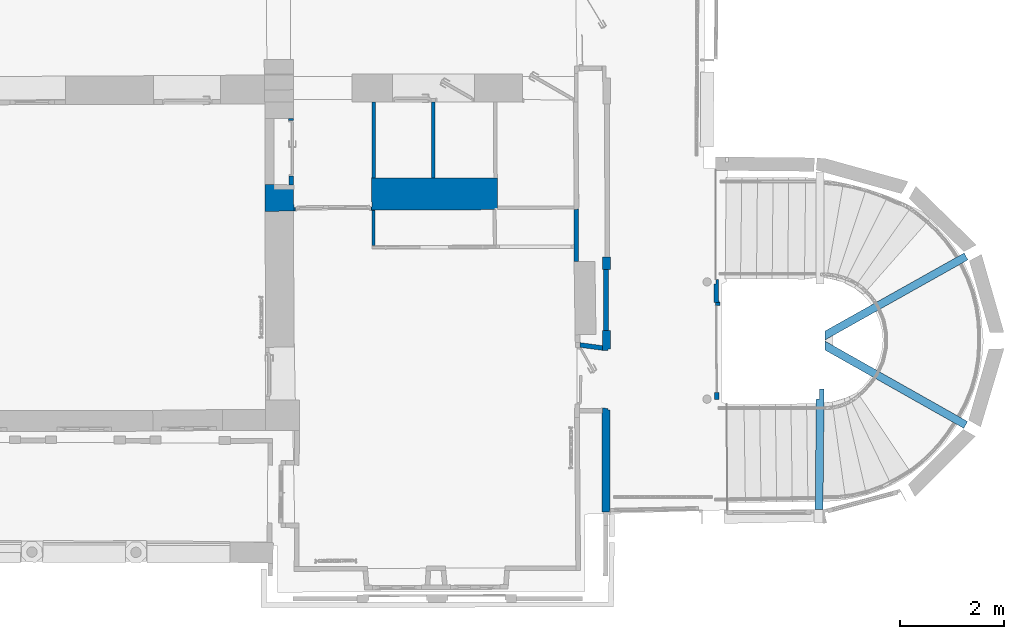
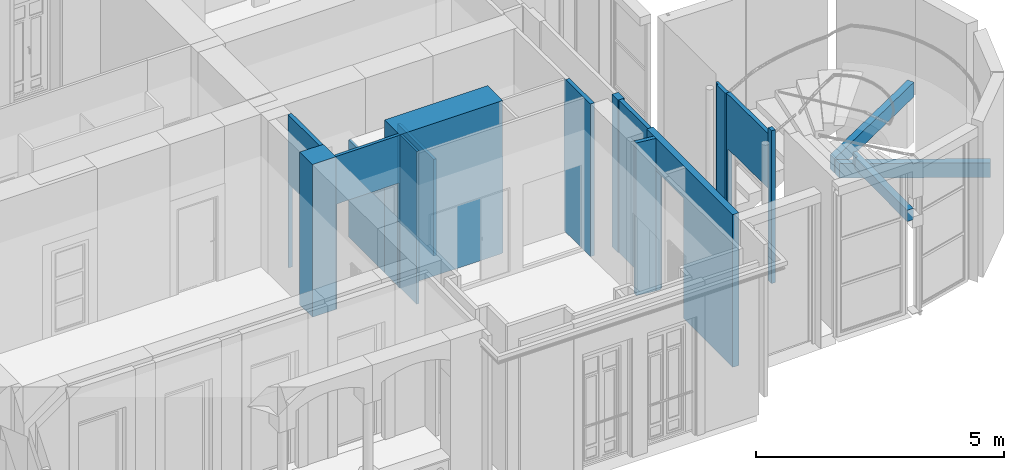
# One storey, part 12 of 66: 18 walls, 4 openings.
"""IFC2X3 building model written with IfcOpenShell, lengths in centimetres."""

from ifc_helpers import new_model, entity, si_unit, converted_unit, direction, frame, origin, origin_with_axes, origin_2d_with_axis, place, context, subcontext, project, spatial, polyline, rectangle, outline, extrude, clip, bounded_halfspace, faceted_brep, shape, material, layer, layer_set, layer_usage, type_object, element, save


model = new_model("IFC2X3")

# Units and contexts
model_context = context("Model", 3, precision=0.0001, world=origin(), true_north=direction((0.225632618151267, 0.974212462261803, 0.0)))
body_context = subcontext(model_context, "Body", "Model", "MODEL_VIEW")
footprint_context = subcontext(model_context, "FootPrint", "Model", "MODEL_VIEW")
profile_context = subcontext(model_context, "Profile", "Model", "MODEL_VIEW")
ifc_project = project(units=[si_unit("LENGTHUNIT", "METRE", prefix="CENTI"), si_unit("AREAUNIT", "SQUARE_METRE", prefix="CENTI"), si_unit("VOLUMEUNIT", "CUBIC_METRE", prefix="CENTI"), converted_unit("PLANEANGLEUNIT", "DEGREE", entity("IfcRatioMeasure", 0.0174532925), si_unit("PLANEANGLEUNIT", "RADIAN"), dimensions=[0, 0, 0, 0, 0, 0, 0])], contexts=[model_context])

# Site, building, storey
site_placement = place(None, origin_with_axes())
site = spatial("IfcSite", under=ifc_project, at=site_placement, Name="Default Site", CompositionType="ELEMENT")
building_placement = place(site_placement, origin_with_axes())
building = spatial("IfcBuilding", under=site, at=building_placement, Name="Default Building", CompositionType="ELEMENT")
storey_placement = place(building_placement, frame((0.0, 0.0, 477.795358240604), z_axis=(0.0, 0.0, 1.0), x_axis=(1.0, 0.0, 0.0)))
storey = spatial("IfcBuildingStorey", under=building, at=storey_placement, Name="Niveau 1", CompositionType="ELEMENT", Elevation=477.795358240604)

# Wall
ifc_material = material(Name="<aucun>")
ifc_layer_1 = layer(ifc_material, 9.0)
ifc_layer_set_1 = layer_set([ifc_layer_1], Name="default")
ifc_layer_usage_1 = layer_usage(ifc_layer_set_1, "AXIS2", "POSITIVE", -4.5)
wall_type_1 = type_object("IfcWallType", Name="default 90", PredefinedType="NOTDEFINED", material=ifc_layer_set_1)
wall_1_placement = place(storey_placement, frame((1101.776454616, -474.349412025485, 0.0128503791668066), z_axis=(0.0, 0.0, 1.0), x_axis=(-0.00922781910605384, 0.999957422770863, 0.0)))
element("IfcWallStandardCase", 1, at=wall_1_placement, inside=storey, type_object=wall_type_1, material=ifc_layer_usage_1, Name="Enveloppe 718700", context=body_context, shape_type="SweptSolid", body=[
    extrude(outline(polyline([(34.6359576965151, 4.50000000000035), (-8.88178419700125e-14, 4.49999999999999), (-8.88178419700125e-14, 1.83109314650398), (-0.0456905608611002, 1.83151478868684), (-0.0572048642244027, -7.16804623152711), (0.0427877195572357, -7.16896898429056), (0.0462034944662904, -4.49999999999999), (43.654465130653, -4.49999999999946), (43.6882308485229, 0.421640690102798), (34.6359593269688, 0.474842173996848), (34.6359576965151, 4.50000000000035)])), frame((0.0, 0.0, -1.77635683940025e-13), z_axis=(0.0, 0.0, 1.0), x_axis=(1.0, 0.0, 0.0)), (0.0, 0.0, 1.0), 356.102165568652),
])

# Wall, opening
ifc_layer_usage_2 = layer_usage(ifc_layer_set_1, "AXIS2", "POSITIVE", -4.5)
wall_2_placement = place(storey_placement, frame((1105.81888581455, -647.145764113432, 0.0128503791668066), z_axis=(0.0, 0.0, 1.0), x_axis=(-0.00794805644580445, 0.99996841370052, 0.0)))
wall_2 = element("IfcWallStandardCase", 2, at=wall_2_placement, inside=storey, type_object=wall_type_1, material=ifc_layer_usage_2, Name="Enveloppe 718734", context=body_context, shape_type="SweptSolid", body=[
    extrude(outline(polyline([(-0.074267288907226, 8.12973288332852), (-0.0999961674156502, -0.870230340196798), (0.0, -0.870946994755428), (8.88178419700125e-14, -4.50000000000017), (172.774986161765, -4.4999999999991), (172.774986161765, 4.5000000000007), (0.0, 4.49999999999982), (0.010374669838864, 8.12906012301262), (-0.074267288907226, 8.12973288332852)])), frame((0.0, 0.0, -2.66453525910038e-13), z_axis=(0.0, 0.0, 1.0), x_axis=(1.0, 0.0, 0.0)), (0.0, 0.0, 1.0), 356.102165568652),
])
opening_1_placement = place(wall_2_placement, frame((1.13686837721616e-13, 0.0, -8.88178419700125e-14), z_axis=(0.0, 0.0, 1.0), x_axis=(-1.0, -4.60395610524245e-15, 0.0)))
cartesian_point_1 = entity("IfcCartesianPoint", [0.0, 0.0, 221.6])
cartesian_point_2 = entity("IfcCartesianPoint", [-166.113069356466, -4.49999999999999])
element("IfcOpeningElement", 3, at=opening_1_placement, cuts=wall_2, Name="Baie 1528657", ObjectType="Opening", shapes=[
    shape(body_context, "Body", "SweptSolid", [extrude(outline(polyline([(0.0, 221.6), (0.0, -8.88178419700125e-14), (166.113069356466, -8.88178419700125e-14), (166.113069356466, 221.6), (0.0, 221.6)])), frame((0.0, -14.5, 0.0), z_axis=(0.0, 1.0, 0.0), x_axis=(-1.0, 0.0, 0.0)), (0.0, 0.0, 1.0), 29.0)]),
    shape(profile_context, "Profile", "GeometricCurveSet", [entity("IfcGeometricCurveSet", [entity("IfcPolyline", [cartesian_point_1, entity("IfcCartesianPoint", [0.0, 0.0, -8.88178419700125e-14]), entity("IfcCartesianPoint", [-166.113069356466, -1.77635683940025e-13, -8.88178419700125e-14]), entity("IfcCartesianPoint", [-166.113069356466, -1.77635683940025e-13, 221.6]), cartesian_point_1])])]),
    shape(footprint_context, "FootPrint", "GeometricCurveSet", [entity("IfcGeometricCurveSet", [entity("IfcPolyline", [cartesian_point_2, entity("IfcCartesianPoint", [0.0, -4.49999999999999]), entity("IfcCartesianPoint", [0.0, 4.49999999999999]), entity("IfcCartesianPoint", [-166.113069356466, 4.49999999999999]), cartesian_point_2])])]),
])

# Walls
ifc_layer_usage_3 = layer_usage(ifc_layer_set_1, "AXIS2", "POSITIVE", -4.5)
wall_3_placement = place(storey_placement, frame((883.853541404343, -562.192113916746, 0.0128503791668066), z_axis=(0.0, 0.0, 1.0), x_axis=(-0.990946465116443, 0.134257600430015, 0.0)))
element("IfcWallStandardCase", 4, at=wall_3_placement, inside=storey, type_object=wall_type_1, material=ifc_layer_usage_3, Name="Enveloppe 724235", context=body_context, shape_type="SweptSolid", body=[
    extrude(outline(polyline([(43.5268829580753, 4.49999999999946), (1.24344978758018e-12, 4.4999999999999), (1.19271669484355, -4.49999999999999), (44.6675000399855, -4.50000000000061), (43.5268829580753, 4.49999999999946)])), frame((0.0, 0.0, -7.99360577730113e-13), z_axis=(0.0, 0.0, 1.0), x_axis=(1.0, 0.0, 0.0)), (0.0, 0.0, 1.0), 376.102165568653),
])
ifc_layer_usage_4 = layer_usage(ifc_layer_set_1, "AXIS2", "POSITIVE", -4.5)
wall_4_placement = place(storey_placement, frame((1102.3054123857, -669.86549020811, 0.0128503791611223), z_axis=(0.0, 0.0, 1.0), x_axis=(-0.00508934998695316, 0.999987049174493, 0.0)))
element("IfcWallStandardCase", 5, at=wall_4_placement, inside=storey, type_object=wall_type_1, material=ifc_layer_usage_4, Name="Enveloppe 1528572", context=body_context, shape_type="Clipping", body=[
    clip(clip(extrude(rectangle(XDim=9.00000011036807, YDim=13.4824443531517, at=origin_2d_with_axis()), frame((15.9467592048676, -1.77635683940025e-13, -1.77635683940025e-13), z_axis=(0.0, 0.0, 1.0), x_axis=(-0.000156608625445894, -0.999999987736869, 0.0)), (0.0, 0.0, 1.0), 376.102165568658), bounded_halfspace(frame((22.6040403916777, -4.50000000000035, 356.102165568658), z_axis=(0.0, 0.0, 1.0), x_axis=(4.47905601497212e-15, 1.0, 0.0)), True, frame((22.6040403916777, -4.50000000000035, 356.102165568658), z_axis=(0.0, 0.0, 1.0), x_axis=(1.0, 0.0, 0.0)), polyline([(-8.88178419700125e-14, -1.77635683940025e-13), (0.0, 7.81832498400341), (0.0846457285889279, 7.81867529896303), (0.0846457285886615, 1.77635683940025e-13), (-8.88178419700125e-14, -1.77635683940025e-13)]))), bounded_halfspace(frame((22.6886861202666, 4.49999999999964, 356.102165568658), z_axis=(0.0, 0.0, 1.0), x_axis=(-5.63334101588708e-14, -1.0, 0.0)), True, frame((22.6886861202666, 4.49999999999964, 356.102165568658), z_axis=(0.0, 0.0, 1.0), x_axis=(1.0, 0.0, 0.0)), polyline([(-0.0846457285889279, -1.18167501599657), (-0.0846457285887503, 3.5527136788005e-13), (-8.88178419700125e-14, 0.0), (0.0, -1.18132470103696), (-0.0846457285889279, -1.18167501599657)]))),
])

# Wall, opening
ifc_layer_usage_5 = layer_usage(ifc_layer_set_1, "AXIS2", "POSITIVE", -4.5)
wall_5_placement = place(storey_placement, frame((286.366814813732, -249.295824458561, 0.0128503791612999), z_axis=(0.0, 0.0, 1.0), x_axis=(-0.00303669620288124, 0.999995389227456, 0.0)))
wall_5 = element("IfcWallStandardCase", 6, at=wall_5_placement, inside=storey, type_object=wall_type_1, material=ifc_layer_usage_5, Name="Enveloppe 119880", context=body_context, shape_type="SweptSolid", body=[
    extrude(rectangle(XDim=9.00000000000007, YDim=126.820270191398, at=origin_2d_with_axis()), frame((63.648753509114, -1.77635683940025e-13, -1.77635683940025e-13), z_axis=(0.0, 0.0, 1.0), x_axis=(-3.03576608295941e-17, -1.0, 0.0)), (0.0, 0.0, 1.0), 376.102165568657),
])
opening_2_placement = place(wall_5_placement, frame((17.1604798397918, -5.6843418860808e-14, -3.5527136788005e-13), z_axis=(0.0, 0.0, 1.0), x_axis=(-1.0, 1.77939260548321e-15, 0.0)))
cartesian_point_3 = entity("IfcCartesianPoint", [0.0, 0.0, 207.0])
cartesian_point_4 = entity("IfcCartesianPoint", [-106.302002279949, -4.50000000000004])
element("IfcOpeningElement", 7, at=opening_2_placement, cuts=wall_5, Name="4294966393_11", ObjectType="Opening", shapes=[
    shape(body_context, "Body", "SweptSolid", [extrude(outline(polyline([(4.44089209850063e-14, 207.0), (4.44089209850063e-14, -8.88178419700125e-14), (106.302002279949, -8.88178419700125e-14), (106.302002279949, 207.0), (4.44089209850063e-14, 207.0)])), frame((0.0, -14.5, 0.0), z_axis=(0.0, 1.0, 0.0), x_axis=(-1.0, 0.0, 0.0)), (0.0, 0.0, 1.0), 29.0)]),
    shape(profile_context, "Profile", "GeometricCurveSet", [entity("IfcGeometricCurveSet", [entity("IfcPolyline", [cartesian_point_3, entity("IfcCartesianPoint", [0.0, 0.0, -8.88178419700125e-14]), entity("IfcCartesianPoint", [-106.302002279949, -4.44089209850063e-14, -8.88178419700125e-14]), entity("IfcCartesianPoint", [-106.302002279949, -4.44089209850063e-14, 207.0]), cartesian_point_3])])]),
    shape(footprint_context, "FootPrint", "GeometricCurveSet", [entity("IfcGeometricCurveSet", [entity("IfcPolyline", [cartesian_point_4, entity("IfcCartesianPoint", [-4.44089209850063e-14, -4.50000000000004]), entity("IfcCartesianPoint", [-4.44089209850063e-14, 4.49999999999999]), entity("IfcCartesianPoint", [-106.302002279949, 4.49999999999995]), cartesian_point_4])])]),
])

# Walls
ifc_layer_usage_6 = layer_usage(ifc_layer_set_1, "AXIS2", "POSITIVE", -4.5)
wall_6_placement = place(storey_placement, frame((833.282924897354, -396.34689842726, 0.0128503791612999), z_axis=(0.0, 0.0, 1.0), x_axis=(-0.00268760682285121, 0.999996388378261, 0.0)))
element("IfcWallStandardCase", 8, at=wall_6_placement, inside=storey, type_object=wall_type_1, material=ifc_layer_usage_6, Name="Enveloppe 93601", context=body_context, shape_type="SweptSolid", body=[
    extrude(outline(polyline([(106.43748559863, 4.49999779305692), (25.1822223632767, 4.50026875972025), (0.111023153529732, 4.5003063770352), (0.111023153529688, -4.50000000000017), (25.1822216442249, -4.50000000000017), (100.331350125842, -4.50000000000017), (100.331350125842, 4.07863208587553), (106.436433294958, 4.10845991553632), (106.43748559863, 4.49999779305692)])), frame((0.0, 0.0, -8.88178419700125e-14), z_axis=(0.0, 0.0, 1.0), x_axis=(1.0, 0.0, 0.0)), (0.0, 0.0, 1.0), 376.102165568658),
])
ifc_layer_2 = layer(ifc_material, 6.0)
ifc_layer_set_2 = layer_set([ifc_layer_2], Name="default")
ifc_layer_usage_7 = layer_usage(ifc_layer_set_2, "AXIS2", "POSITIVE", -3.0)
wall_type_2 = type_object("IfcWallType", Name="default 60", PredefinedType="NOTDEFINED", material=ifc_layer_set_2)
wall_7_placement = place(storey_placement, frame((444.266936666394, -372.595680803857, 0.0128503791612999), z_axis=(0.0, 0.0, 1.0), x_axis=(0.00280150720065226, 0.999996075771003, 0.0)))
element("IfcWallStandardCase", 9, at=wall_7_placement, inside=storey, type_object=wall_type_2, material=ifc_layer_usage_7, Name="Enveloppe 93384", context=body_context, shape_type="SweptSolid", body=[
    extrude(outline(polyline([(6.9088770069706, 3.00000000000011), (6.95049050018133, -3.00000000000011), (74.3670864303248, -2.99999999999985), (74.3022257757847, 3.00000000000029), (6.9088770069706, 3.00000000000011)])), frame((0.0, 0.0, -2.66453525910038e-13), z_axis=(0.0, 0.0, 1.0), x_axis=(1.0, 0.0, 0.0)), (0.0, 0.0, 1.0), 376.102165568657),
])
ifc_layer_3 = layer(ifc_material, 15.0)
ifc_layer_set_3 = layer_set([ifc_layer_3], Name="default")
ifc_layer_usage_8 = layer_usage(ifc_layer_set_3, "AXIS2", "POSITIVE", -7.5)
wall_type_3 = type_object("IfcWallType", Name="default 150", PredefinedType="NOTDEFINED", material=ifc_layer_set_3)
wall_8_placement = place(storey_placement, frame((1298.61623333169, -872.11862005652, 213.0), z_axis=(0.0, 0.0, 1.0), x_axis=(0.00993886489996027, 0.999950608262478, 0.0)))
element("IfcWallStandardCase", 10, at=wall_8_placement, inside=storey, type_object=wall_type_3, material=ifc_layer_usage_8, Name="Enveloppe 1669882", context=body_context, shape_type="SweptSolid", body=[
    extrude(outline(polyline([(-0.0411105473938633, 7.49999999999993), (0.158887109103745, -7.49999999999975), (231.711479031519, -7.49999999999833), (231.607152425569, 1.49939531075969), (212.429056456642, 1.27707085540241), (212.336503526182, 7.50000000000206), (-0.0411105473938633, 7.49999999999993)])), origin_with_axes(), (0.0, 0.0, 1.0), 27.7999999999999),
])
ifc_layer_usage_9 = layer_usage(ifc_layer_set_3, "AXIS2", "POSITIVE", -7.5)
wall_9_placement = place(storey_placement, frame((1579.75262424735, -709.592099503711, 128.0), z_axis=(0.0, 0.0, 1.0), x_axis=(-0.870947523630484, 0.491376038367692, 0.0)))
element("IfcWallStandardCase", 11, at=wall_9_placement, inside=storey, type_object=wall_type_3, material=ifc_layer_usage_9, Name="Enveloppe 1686694", context=body_context, shape_type="SweptSolid", body=[
    extrude(outline(polyline([(313.656157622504, -7.50000000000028), (305.159077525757, 7.49999999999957), (0.0355609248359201, 7.49999999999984), (0.014365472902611, -7.50000000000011), (313.656157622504, -7.50000000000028)])), frame((0.0, 0.0, -8.88178419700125e-14), z_axis=(0.0, 0.0, 1.0), x_axis=(1.0, 0.0, 0.0)), (0.0, 0.0, 1.0), 35.9999999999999),
])
ifc_layer_usage_10 = layer_usage(ifc_layer_set_3, "AXIS2", "POSITIVE", -7.5)
wall_10_placement = place(storey_placement, frame((1313.89416798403, -535.964663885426, 128.0), z_axis=(0.0, 0.0, 1.0), x_axis=(0.872240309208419, 0.489077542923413, 0.0)))
element("IfcWallStandardCase", 12, at=wall_10_placement, inside=storey, type_object=wall_type_3, material=ifc_layer_usage_10, Name="Enveloppe 1686645", context=body_context, shape_type="SweptSolid", body=[
    extrude(outline(polyline([(-7.94989603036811e-06, 7.50000000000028), (-8.37659307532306, -7.49999999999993), (305.402361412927, -7.50000000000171), (305.737743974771, 7.49999999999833), (-7.94989603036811e-06, 7.50000000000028)])), frame((0.0, 0.0, -8.88178419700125e-14), z_axis=(0.0, 0.0, 1.0), x_axis=(1.0, 0.0, 0.0)), (0.0, 0.0, 1.0), 36.0000000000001),
])

# Wall, opening
ifc_layer_4 = layer(ifc_material, 7.0)
ifc_layer_set_4 = layer_set([ifc_layer_4], Name="default")
ifc_layer_usage_11 = layer_usage(ifc_layer_set_4, "AXIS2", "POSITIVE", -3.5)
wall_type_4 = type_object("IfcWallType", Name="default 70", PredefinedType="NOTDEFINED", material=ifc_layer_set_4)
wall_11_placement = place(storey_placement, frame((290.301125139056, -295.995883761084, 0.0128503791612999), z_axis=(0.0, 0.0, 1.0), x_axis=(0.999967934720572, 0.00800809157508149, 0.0)))
wall_11 = element("IfcWallStandardCase", 13, at=wall_11_placement, inside=storey, type_object=wall_type_4, material=ifc_layer_usage_11, Name="Enveloppe 93039", context=body_context, shape_type="Clipping", body=[
    clip(extrude(outline(polyline([(1.02493446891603, 3.5000000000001), (0.990136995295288, -3.4996070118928), (157.151150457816, -3.50000000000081), (157.160250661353, -2.65817653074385), (150.659950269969, -2.61975325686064), (150.659950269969, 3.49999999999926), (1.02493446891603, 3.5000000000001)])), frame((0.0, 0.0, -2.66453525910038e-13), z_axis=(0.0, 0.0, 1.0), x_axis=(1.0, 0.0, 0.0)), (0.0, 0.0, 1.0), 376.102165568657), bounded_halfspace(frame((150.659950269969, -2.61975325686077, 238.102165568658), z_axis=(0.0, 0.0, 1.0), x_axis=(-0.999982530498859, 0.00591089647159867, 0.0)), True, frame((150.659950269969, -2.61975325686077, 238.102165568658), z_axis=(0.0, 0.0, 1.0), x_axis=(1.0, 0.0, 0.0)), polyline([(-0.409197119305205, 0.00241876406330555), (-0.409197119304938, 6.11975325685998), (8.88178419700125e-14, 6.11975325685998), (0.0, -4.44089209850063e-14), (-0.409197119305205, 0.00241876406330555)]))),
])
opening_3_placement = place(wall_11_placement, frame((4.04959964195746, -5.6843418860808e-14, -8.97060203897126e-14), z_axis=(0.0, 0.0, 1.0), x_axis=(1.0, -5.24059962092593e-15, 0.0)))
cartesian_point_5 = entity("IfcCartesianPoint", [0.0, 0.0, 258.593309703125])
cartesian_point_6 = entity("IfcCartesianPoint", [145.064891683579, 3.49999999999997])
element("IfcOpeningElement", 14, at=opening_3_placement, cuts=wall_11, Name="4294966395_11", ObjectType="Opening", shapes=[
    shape(body_context, "Body", "SweptSolid", [extrude(outline(polyline([(-4.44089209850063e-14, 258.593309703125), (-4.44089209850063e-14, -8.88178419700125e-14), (145.064891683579, -8.88178419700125e-14), (145.064891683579, 258.593309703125), (-4.44089209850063e-14, 258.593309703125)])), frame((0.0, 13.5, 0.0), z_axis=(0.0, -1.0, 0.0), x_axis=(1.0, 0.0, 0.0)), (0.0, 0.0, 1.0), 27.0)]),
    shape(profile_context, "Profile", "GeometricCurveSet", [entity("IfcGeometricCurveSet", [entity("IfcPolyline", [cartesian_point_5, entity("IfcCartesianPoint", [0.0, 0.0, -8.88178419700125e-14]), entity("IfcCartesianPoint", [145.064891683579, 0.0, -8.88178419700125e-14]), entity("IfcCartesianPoint", [145.064891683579, 0.0, 258.593309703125]), cartesian_point_5])])]),
    shape(footprint_context, "FootPrint", "GeometricCurveSet", [entity("IfcGeometricCurveSet", [entity("IfcPolyline", [cartesian_point_6, entity("IfcCartesianPoint", [-4.44089209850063e-14, 3.50000000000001]), entity("IfcCartesianPoint", [0.0, -3.50000000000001]), entity("IfcCartesianPoint", [145.064891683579, -3.50000000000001]), cartesian_point_6])])]),
])

# Walls
ifc_layer_5 = layer(ifc_material, 55.0)
ifc_layer_set_5 = layer_set([ifc_layer_5], Name="default")
ifc_layer_usage_12 = layer_usage(ifc_layer_set_5, "AXIS2", "POSITIVE", -27.5)
wall_type_5 = type_object("IfcWallType", Name="default 550", PredefinedType="NOTDEFINED", material=ifc_layer_set_5)
wall_12_placement = place(storey_placement, frame((263.810303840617, -296.581762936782, 0.0128503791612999), z_axis=(0.0, 0.0, 1.0), x_axis=(-0.00303669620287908, 0.999995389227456, 0.0)))
element("IfcWallStandardCase", 15, at=wall_12_placement, inside=storey, type_object=wall_type_5, material=ifc_layer_usage_12, Name="Enveloppe 119942", context=body_context, shape_type="SweptSolid", body=[
    extrude(outline(polyline([(47.8431687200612, 27.4999999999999), (-3.2630358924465, 27.5000000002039), (-3.26303589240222, -26.5144453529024), (-2.99450805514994, -26.5132565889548), (-2.9896024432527, -27.5000000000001), (42.8276816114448, -27.5000000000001), (42.8285926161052, -27.2000027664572), (47.4558415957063, -27.2000000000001), (47.4558415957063, -18.2), (47.8431687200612, 9.99999999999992), (47.8431687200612, 27.4999999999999)])), frame((0.0, 0.0, -1.77635683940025e-13), z_axis=(0.0, 0.0, 1.0), x_axis=(1.0, 0.0, 0.0)), (0.0, 0.0, 1.0), 376.102165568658),
])
ifc_layer_6 = layer(ifc_material, 61.0)
ifc_layer_set_6 = layer_set([ifc_layer_6], Name="default")
ifc_layer_usage_13 = layer_usage(ifc_layer_set_6, "AXIS2", "POSITIVE", -30.5)
wall_type_6 = type_object("IfcWallType", Name="default 610", PredefinedType="NOTDEFINED", material=ifc_layer_set_6)
wall_13_placement = place(storey_placement, frame((440.913257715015, -266.90912141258, 0.0128503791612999), z_axis=(0.0, 0.0, 1.0), x_axis=(0.999997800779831, 0.00209724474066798, 0.0)))
element("IfcWallStandardCase", 16, at=wall_13_placement, inside=storey, type_object=wall_type_6, material=ifc_layer_usage_13, Name="Enveloppe 93300", context=body_context, shape_type="Clipping", body=[
    clip(clip(clip(extrude(outline(polyline([(118.17999525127, 30.5000000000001), (114.645379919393, 30.5002097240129), (-0.000841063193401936, 30.5000017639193), (-0.163863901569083, -2.77814093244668), (-0.0361726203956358, -24.3800639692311), (-0.445363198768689, -24.3827723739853), (-0.409202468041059, -30.4991418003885), (114.645379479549, -30.4999999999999), (118.17999525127, -30.4999999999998), (238.358728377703, -30.4999999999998), (238.351072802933, -29.8263983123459), (241.090745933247, -29.8263983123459), (241.090745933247, -23.8263983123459), (240.711685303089, -23.8256033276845), (240.709262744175, 30.5000050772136), (118.17999525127, 30.5000000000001)])), frame((0.0, 0.0, -1.77635683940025e-13), z_axis=(0.0, 0.0, 1.0), x_axis=(1.0, 0.0, 0.0)), (0.0, 0.0, 1.0), 376.102165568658), bounded_halfspace(frame((-0.163863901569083, -2.77814093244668, 238.102165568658), z_axis=(0.0, 0.0, -1.0), x_axis=(0.00591089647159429, -0.999982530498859, 0.0)), True, frame((-0.163863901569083, -2.77814093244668, 238.102165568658), z_axis=(0.0, 0.0, 1.0), x_axis=(1.0, 0.0, 0.0)), polyline([(8.88178419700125e-14, 4.44089209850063e-14), (0.127690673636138, -21.6022127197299), (0.163863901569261, -21.6019988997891), (0.163022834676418, 33.2781409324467), (8.88178419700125e-14, 4.44089209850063e-14)]))), bounded_halfspace(frame((-0.445363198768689, -24.3827723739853, 238.102165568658), z_axis=(0.0, 0.0, -1.0), x_axis=(0.00591089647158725, -0.999982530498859, 0.0)), True, frame((-0.445363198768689, -24.3827723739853, 238.102165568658), z_axis=(0.0, 0.0, 1.0), x_axis=(1.0, 0.0, 0.0)), polyline([(0.0, 0.0), (0.0361589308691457, -6.11722762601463), (0.445363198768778, -6.11722762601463), (0.409189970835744, 0.00241872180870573), (0.0, 0.0)]))), bounded_halfspace(frame((241.090745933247, -23.8263983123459, 238.102165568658), z_axis=(0.0, 0.0, -1.0), x_axis=(-1.0, -8.75410854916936e-14, 0.0)), True, frame((241.090745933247, -23.8263983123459, 238.102165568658), z_axis=(0.0, 0.0, 1.0), x_axis=(1.0, 0.0, 0.0)), polyline([(-0.381483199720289, -6.00000000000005), (8.88178419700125e-14, -5.99999999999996), (0.0, 4.44089209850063e-14), (-0.379062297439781, 0.0), (-0.381483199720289, -6.00000000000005)]))),
])
ifc_layer_usage_14 = layer_usage(ifc_layer_set_1, "AXIS2", "POSITIVE", -4.5)
wall_type_7 = type_object("IfcWallType", Name="default 90", PredefinedType="NOTDEFINED", material=ifc_layer_set_1)
wall_14_placement = place(storey_placement, frame((889.982959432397, -528.876686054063, 0.0128503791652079), z_axis=(0.0, 0.0, 1.0), x_axis=(0.000515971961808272, 0.999999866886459, 0.0)))
element("IfcWallStandardCase", 17, at=wall_14_placement, inside=storey, type_object=wall_type_7, material=ifc_layer_usage_14, Name="Enveloppe 424442", context=body_context, shape_type="SweptSolid", body=[
    extrude(outline(polyline([(0.00392313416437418, 4.49999999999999), (-0.0211840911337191, -4.49999999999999), (116.880549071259, -4.49741952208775), (116.88706871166, 4.5000000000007), (0.00392313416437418, 4.49999999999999)])), frame((0.0, 0.0, 1.77635683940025e-13), z_axis=(0.0, 0.0, 1.0), x_axis=(1.0, 0.0, 0.0)), (0.0, 0.0, 1.0), 376.102165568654),
])
ifc_layer_usage_15 = layer_usage(ifc_layer_set_3, "AXIS2", "POSITIVE", -7.5)
wall_type_8 = type_object("IfcWallType", Name="default 150", PredefinedType="NOTDEFINED", material=ifc_layer_set_3)
wall_15_placement = place(storey_placement, frame((890.956390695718, -411.994026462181, 0.0128503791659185), z_axis=(0.0, 0.0, 1.0), x_axis=(0.00124058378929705, 0.999999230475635, 0.0)))
element("IfcWallStandardCase", 18, at=wall_15_placement, inside=storey, type_object=wall_type_8, material=ifc_layer_usage_15, Name="Enveloppe 426396", context=body_context, shape_type="SweptSolid", body=[
    extrude(outline(polyline([(0.0, 7.49999999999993), (0.0, 5.41581099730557), (24.3169223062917, 5.29640609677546), (3.33297167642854e-06, 5.41312438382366), (0.0, -7.49999999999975), (24.3169223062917, -7.50000000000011), (24.3169223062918, 7.49999999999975), (0.0, 7.49999999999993)])), frame((0.0, 0.0, -3.5527136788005e-13), z_axis=(0.0, 0.0, 1.0), x_axis=(1.0, 0.0, 0.0)), (0.0, 0.0, 1.0), 376.102165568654),
])

# Wall, opening
ifc_layer_usage_16 = layer_usage(ifc_layer_set_3, "AXIS2", "POSITIVE", -7.5)
wall_16_placement = place(storey_placement, frame((889.72500294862, -876.549426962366, 0.0128503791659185), z_axis=(0.0, 0.0, 1.0), x_axis=(0.00330565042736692, 0.9999945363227, 0.0)))
wall_16 = element("IfcWallStandardCase", 19, at=wall_16_placement, inside=storey, type_object=wall_type_8, material=ifc_layer_usage_16, Name="Enveloppe 426311", context=body_context, shape_type="SweptSolid", body=[
    extrude(outline(polyline([(318.953164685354, 7.50000000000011), (189.810626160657, 7.49999999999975), (1.77635683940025e-13, 7.49999999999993), (1.77635683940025e-13, 4.29182617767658), (-0.267911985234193, 4.29245505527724), (0.0209999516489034, -7.50000000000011), (189.810626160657, -7.49999999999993), (318.953164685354, -7.50000000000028), (347.6630636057, -7.50000000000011), (347.6630636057, 7.49999999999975), (318.953164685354, 7.50000000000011)])), frame((0.0, 0.0, -4.9737991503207e-12), z_axis=(0.0, 0.0, 1.0), x_axis=(1.0, 0.0, 0.0)), (0.0, 0.0, 1.0), 376.102165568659),
])
opening_4_placement = place(wall_16_placement, frame((195.936919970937, 1.13686837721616e-13, -3.5527136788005e-13), z_axis=(0.0, 0.0, 1.0), x_axis=(-1.0, 4.35415592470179e-16, 0.0)))
cartesian_point_7 = entity("IfcCartesianPoint", [0.0, 1.77635683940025e-13, 295.84763712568])
cartesian_point_8 = entity("IfcCartesianPoint", [-116.93803466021, -7.49999999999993])
element("IfcOpeningElement", 20, at=opening_4_placement, cuts=wall_16, Name="Baie 442635", ObjectType="Opening", shapes=[
    shape(body_context, "Body", "Brep", [faceted_brep([(-2.9999816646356, -27.4999641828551, 295.847635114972), (-113.938039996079, -27.4999641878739, 295.847635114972), (-113.938039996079, -27.4999641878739, -1.92276796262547e-05), (-2.9999816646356, -27.4999641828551, -1.92276796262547e-05), (1.54672202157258e-05, 27.4999726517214, -1.92276796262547e-05), (-116.93802256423, 27.4999726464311, -1.92276796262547e-05), (-116.93802256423, 27.4999726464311, 295.847635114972), (1.54672202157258e-05, 27.4999726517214, 295.847635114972), (-2.99998166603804, 3.49996104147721, -1.92276796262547e-05), (-2.99998166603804, 3.49996104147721, 295.847635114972), (-2.99998427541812, 3.49996104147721, 295.847635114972), (-2.99998427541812, 3.49996104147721, -1.92276796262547e-05), (5.4169596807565e-06, 3.49996104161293, -1.92276796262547e-05), (5.4169596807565e-06, 3.49996104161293, 295.847635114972), (5.41695968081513e-06, 3.49995974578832, 295.847635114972), (5.41695968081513e-06, 3.49995974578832, -1.92276796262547e-05), (5.41587391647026e-06, 27.4999726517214, -1.92276796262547e-05), (5.41587391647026e-06, 27.4999726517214, 295.847635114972), (-113.938039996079, -27.4999988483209, -1.92276796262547e-05), (-113.938042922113, 3.50002174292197, -1.92276796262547e-05), (-116.938032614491, 3.50002303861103, -1.92276796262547e-05), (-116.93802256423, 27.5000359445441, -1.92276796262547e-05), (-113.938039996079, -27.4999988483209, 295.847635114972), (-113.938039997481, 3.50002174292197, 295.847635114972), (-113.938039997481, 3.50002174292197, -1.92276796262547e-05), (-113.938042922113, 3.50002174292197, 295.847635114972), (-116.938032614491, 3.50002174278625, 295.847635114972), (-116.938032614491, 3.50002174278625, -1.92276796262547e-05), (-116.938032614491, 3.50002303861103, 295.847635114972), (-116.938032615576, 27.5000359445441, 295.847635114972), (-116.938032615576, 27.5000359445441, -1.92276796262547e-05), (-116.93802256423, 27.5000359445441, 295.847635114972)], [[[0, 1, 2, 3]], [[4, 5, 6, 7]], [[0, 3, 8, 9]], [[10, 11, 12, 13]], [[14, 15, 16, 17]], [[3, 18, 19, 20, 21, 4, 15, 11]], [[18, 22, 23, 24]], [[19, 25, 26, 27]], [[20, 28, 29, 30]], [[10, 14, 7, 31, 28, 25, 22, 0]]])]),
    shape(profile_context, "Profile", "GeometricCurveSet", [entity("IfcGeometricCurveSet", [entity("IfcPolyline", [cartesian_point_7, entity("IfcCartesianPoint", [0.0, 1.77635683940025e-13, 8.88178419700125e-14]), entity("IfcCartesianPoint", [-116.93803466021, 0.0, 8.88178419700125e-14]), entity("IfcCartesianPoint", [-116.93803466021, 0.0, 295.84763712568]), cartesian_point_7])])]),
    shape(footprint_context, "FootPrint", "GeometricCurveSet", [entity("IfcGeometricCurveSet", [entity("IfcPolyline", [cartesian_point_8, entity("IfcCartesianPoint", [-8.88178419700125e-14, -7.49999999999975]), entity("IfcCartesianPoint", [-8.88178419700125e-14, 7.50000000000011]), entity("IfcCartesianPoint", [-116.93803466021, 7.49999999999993]), cartesian_point_8])])]),
])

# Walls
ifc_layer_7 = layer(ifc_material, 6.8)
ifc_layer_set_7 = layer_set([ifc_layer_7], Name="default")
ifc_layer_usage_17 = layer_usage(ifc_layer_set_7, "AXIS2", "POSITIVE", -3.4)
wall_type_9 = type_object("IfcWallType", Name="default 68", PredefinedType="NOTDEFINED", material=ifc_layer_set_7)
wall_17_placement = place(storey_placement, frame((444.248530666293, -236.385403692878, 0.0128503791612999), z_axis=(0.0, 0.0, 1.0), x_axis=(0.00280150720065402, 0.999996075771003, 0.0)))
element("IfcWallStandardCase", 21, at=wall_17_placement, inside=storey, type_object=wall_type_9, material=ifc_layer_usage_17, Name="Enveloppe 93081", context=body_context, shape_type="SweptSolid", body=[
    extrude(outline(polyline([(-0.0333118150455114, 3.39999999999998), (0.0, -3.40000000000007), (145.900787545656, -3.39999999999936), (145.875621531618, 3.40000000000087), (-0.0333118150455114, 3.39999999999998)])), frame((0.0, 0.0, -2.66453525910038e-13), z_axis=(0.0, 0.0, 1.0), x_axis=(1.0, 0.0, 0.0)), (0.0, 0.0, 1.0), 238.102165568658),
])
ifc_layer_usage_18 = layer_usage(ifc_layer_set_7, "AXIS2", "POSITIVE", -3.4)
wall_18_placement = place(storey_placement, frame((558.994401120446, -236.157550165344, 0.0128503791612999), z_axis=(0.0, 0.0, 1.0), x_axis=(-0.00323211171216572, 0.999994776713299, 0.0)))
element("IfcWallStandardCase", 22, at=wall_18_placement, inside=storey, type_object=wall_type_9, material=ifc_layer_usage_18, Name="Enveloppe 93092", context=body_context, shape_type="SweptSolid", body=[
    extrude(outline(polyline([(145.770877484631, 3.39999999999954), (4.44089209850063e-14, 3.39999999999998), (-0.00771712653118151, -3.40000000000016), (145.755014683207, -3.40000000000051), (145.770877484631, 3.39999999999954)])), origin_with_axes(), (0.0, 0.0, 1.0), 238.102165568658),
])

save(model, "model.ifc")
